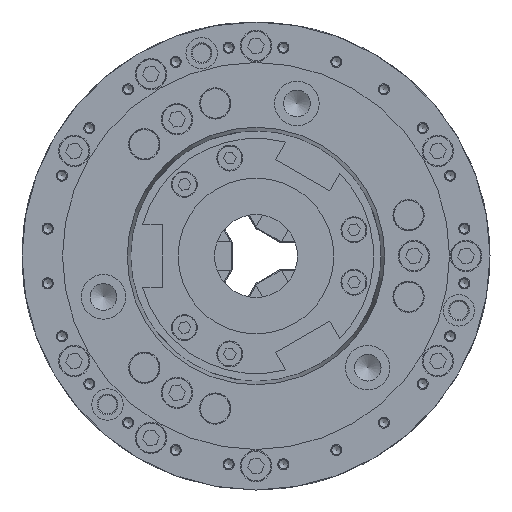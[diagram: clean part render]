
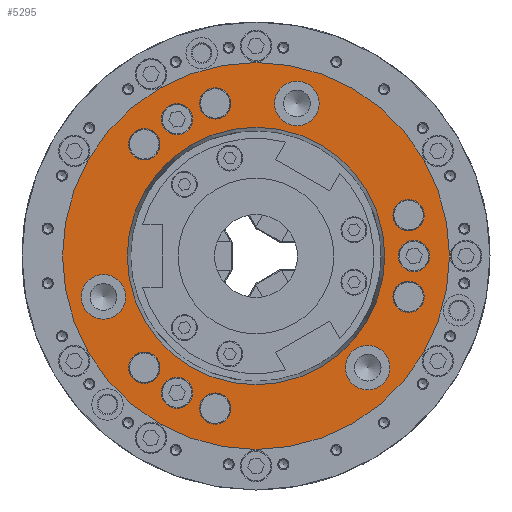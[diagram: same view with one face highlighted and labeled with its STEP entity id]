
A CAD part, left-side view. The second image highlights one B-rep face of the part: STEP entity #5295.
In plain terms, the highlighted planar face has unit normal (-1, 0, 0).
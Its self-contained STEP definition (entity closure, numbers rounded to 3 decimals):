
#319 = ORIENTED_EDGE ( 'NONE', *, *, #3410, .T. ) ;
#1365 = CARTESIAN_POINT ( 'NONE',  ( -114., 42.862, -65.74 ) ) ;
#2417 = EDGE_CURVE ( 'NONE', #73431, #73431, #35560, .T. ) ;
#2870 = CIRCLE ( 'NONE', #75225, 8.5 ) ;
#2931 = CIRCLE ( 'NONE', #22307, 8.5 ) ;
#3189 = VERTEX_POINT ( 'NONE', #39718 ) ;
#3400 = CARTESIAN_POINT ( 'NONE',  ( -114., -60.617, -48.517 ) ) ;
#3410 = EDGE_CURVE ( 'NONE', #23876, #23876, #12984, .T. ) ;
#3440 = DIRECTION ( 'NONE',  ( 0., 0., -1. ) ) ;
#3569 = ORIENTED_EDGE ( 'NONE', *, *, #39184, .F. ) ;
#4223 = FACE_BOUND ( 'NONE', #8198, .T. ) ;
#4686 = DIRECTION ( 'NONE',  ( 1., 0., 0. ) ) ;
#5206 = FACE_BOUND ( 'NONE', #77025, .T. ) ;
#5295 = ADVANCED_FACE ( 'NONE', ( #4223, #63150, #18266, #43453, #28484, #49930, #5206, #64048, #31352, #13603, #75303, #27602, #11703, #57416 ), #14771, .T. ) ;
#6658 = DIRECTION ( 'NONE',  ( 0., 0., -1. ) ) ;
#7044 = DIRECTION ( 'NONE',  ( 0., 0.866, 0.5 ) ) ;
#7797 = DIRECTION ( 'NONE',  ( 0., 0., 1. ) ) ;
#7838 = CARTESIAN_POINT ( 'NONE',  ( -114., 22.187, -82.804 ) ) ;
#7913 = DIRECTION ( 'NONE',  ( -1., 0., 0. ) ) ;
#8198 = EDGE_LOOP ( 'NONE', ( #77047 ) ) ;
#8716 = AXIS2_PLACEMENT_3D ( 'NONE', #71978, #35618, #6658 ) ;
#9535 = CIRCLE ( 'NONE', #42071, 12.1 ) ;
#9704 = VERTEX_POINT ( 'NONE', #1365 ) ;
#10641 = CIRCLE ( 'NONE', #42029, 8.5 ) ;
#11029 = CARTESIAN_POINT ( 'NONE',  ( -114., -75.443, 26.437 ) ) ;
#11421 = CARTESIAN_POINT ( 'NONE',  ( -114., -22.187, 82.804 ) ) ;
#11440 = AXIS2_PLACEMENT_3D ( 'NONE', #30258, #71564, #11985 ) ;
#11703 = FACE_BOUND ( 'NONE', #36053, .T. ) ;
#11911 = EDGE_CURVE ( 'NONE', #32168, #32168, #42522, .T. ) ;
#11985 = DIRECTION ( 'NONE',  ( 0., -0.866, -0.5 ) ) ;
#12584 = EDGE_LOOP ( 'NONE', ( #34785 ) ) ;
#12713 = EDGE_LOOP ( 'NONE', ( #3569 ) ) ;
#12909 = DIRECTION ( 'NONE',  ( 0., 0., -1. ) ) ;
#12984 = CIRCLE ( 'NONE', #8716, 69.859 ) ;
#13603 = FACE_BOUND ( 'NONE', #49838, .T. ) ;
#14343 = DIRECTION ( 'NONE',  ( 1., 0., 0. ) ) ;
#14771 = PLANE ( 'NONE',  #32377 ) ;
#15137 = CARTESIAN_POINT ( 'NONE',  ( -114., 35.501, 69.99 ) ) ;
#15707 = CARTESIAN_POINT ( 'NONE',  ( -114., 60.617, 60.617 ) ) ;
#15989 = CARTESIAN_POINT ( 'NONE',  ( -114., 60.617, -60.617 ) ) ;
#16529 = EDGE_CURVE ( 'NONE', #36869, #36869, #16658, .T. ) ;
#16658 = CIRCLE ( 'NONE', #11440, 8.5 ) ;
#17095 = VERTEX_POINT ( 'NONE', #3400 ) ;
#18060 = VERTEX_POINT ( 'NONE', #47535 ) ;
#18266 = FACE_BOUND ( 'NONE', #12584, .T. ) ;
#20626 = DIRECTION ( 'NONE',  ( 0., -0.866, 0.5 ) ) ;
#21230 = DIRECTION ( 'NONE',  ( 1., 0., 0. ) ) ;
#21961 = CARTESIAN_POINT ( 'NONE',  ( -114., -82.804, 22.187 ) ) ;
#22307 = AXIS2_PLACEMENT_3D ( 'NONE', #67455, #7913, #68234 ) ;
#22468 = DIRECTION ( 'NONE',  ( 0., 0.866, 0.5 ) ) ;
#22787 = CARTESIAN_POINT ( 'NONE',  ( -114., -75.443, -26.437 ) ) ;
#23173 = AXIS2_PLACEMENT_3D ( 'NONE', #64301, #52190, #52716 ) ;
#23876 = VERTEX_POINT ( 'NONE', #53319 ) ;
#24355 = EDGE_CURVE ( 'NONE', #9704, #9704, #28218, .T. ) ;
#25146 = CARTESIAN_POINT ( 'NONE',  ( -114., -60.617, -60.617 ) ) ;
#26761 = DIRECTION ( 'NONE',  ( 0., 0., 1. ) ) ;
#27602 = FACE_BOUND ( 'NONE', #45735, .T. ) ;
#27696 = AXIS2_PLACEMENT_3D ( 'NONE', #60957, #43116, #12909 ) ;
#28218 = CIRCLE ( 'NONE', #33477, 8.5 ) ;
#28484 = FACE_OUTER_BOUND ( 'NONE', #50827, .T. ) ;
#28630 = ORIENTED_EDGE ( 'NONE', *, *, #71998, .F. ) ;
#28679 = EDGE_CURVE ( 'NONE', #3189, #3189, #32865, .T. ) ;
#30258 = CARTESIAN_POINT ( 'NONE',  ( -114., 22.187, 82.804 ) ) ;
#31078 = VERTEX_POINT ( 'NONE', #15137 ) ;
#31105 = ORIENTED_EDGE ( 'NONE', *, *, #11911, .F. ) ;
#31352 = FACE_BOUND ( 'NONE', #12713, .T. ) ;
#31648 = AXIS2_PLACEMENT_3D ( 'NONE', #11421, #71030, #35677 ) ;
#32168 = VERTEX_POINT ( 'NONE', #71939 ) ;
#32377 = AXIS2_PLACEMENT_3D ( 'NONE', #62549, #74311, #26761 ) ;
#32865 = CIRCLE ( 'NONE', #31648, 12.1 ) ;
#33477 = AXIS2_PLACEMENT_3D ( 'NONE', #73632, #38034, #7797 ) ;
#33797 = CIRCLE ( 'NONE', #37666, 8.5 ) ;
#34785 = ORIENTED_EDGE ( 'NONE', *, *, #34848, .F. ) ;
#34848 = EDGE_CURVE ( 'NONE', #56358, #56358, #40931, .T. ) ;
#35560 = CIRCLE ( 'NONE', #67778, 8.5 ) ;
#35618 = DIRECTION ( 'NONE',  ( 1., 0., 0. ) ) ;
#35677 = DIRECTION ( 'NONE',  ( 0., 0., 1. ) ) ;
#36053 = EDGE_LOOP ( 'NONE', ( #71477 ) ) ;
#36869 = VERTEX_POINT ( 'NONE', #43386 ) ;
#37028 = DIRECTION ( 'NONE',  ( 0., 0., 1. ) ) ;
#37344 = DIRECTION ( 'NONE',  ( 0., 0., 1. ) ) ;
#37666 = AXIS2_PLACEMENT_3D ( 'NONE', #7838, #14343, #20626 ) ;
#38034 = DIRECTION ( 'NONE',  ( -1., 0., 0. ) ) ;
#39184 = EDGE_CURVE ( 'NONE', #45112, #45112, #2931, .T. ) ;
#39718 = CARTESIAN_POINT ( 'NONE',  ( -114., -22.187, 94.904 ) ) ;
#39910 = ORIENTED_EDGE ( 'NONE', *, *, #46862, .T. ) ;
#40931 = CIRCLE ( 'NONE', #62571, 12.1 ) ;
#42029 = AXIS2_PLACEMENT_3D ( 'NONE', #21961, #4686, #22468 ) ;
#42071 = AXIS2_PLACEMENT_3D ( 'NONE', #25146, #66965, #37344 ) ;
#42522 = CIRCLE ( 'NONE', #27696, 105. ) ;
#43116 = DIRECTION ( 'NONE',  ( 1., 0., 0. ) ) ;
#43386 = CARTESIAN_POINT ( 'NONE',  ( -114., 14.826, 78.554 ) ) ;
#43453 = FACE_BOUND ( 'NONE', #73587, .T. ) ;
#43787 = EDGE_CURVE ( 'NONE', #18060, #18060, #53698, .T. ) ;
#44142 = EDGE_LOOP ( 'NONE', ( #64555 ) ) ;
#44191 = EDGE_CURVE ( 'NONE', #73204, #73204, #10641, .T. ) ;
#44457 = ORIENTED_EDGE ( 'NONE', *, *, #24355, .F. ) ;
#45112 = VERTEX_POINT ( 'NONE', #22787 ) ;
#45499 = CARTESIAN_POINT ( 'NONE',  ( -114., 82.804, -10.087 ) ) ;
#45735 = EDGE_LOOP ( 'NONE', ( #48528 ) ) ;
#46862 = EDGE_CURVE ( 'NONE', #59160, #59160, #33797, .T. ) ;
#47535 = CARTESIAN_POINT ( 'NONE',  ( -114., 60.617, -52.117 ) ) ;
#47954 = ORIENTED_EDGE ( 'NONE', *, *, #43787, .F. ) ;
#48528 = ORIENTED_EDGE ( 'NONE', *, *, #16529, .F. ) ;
#49838 = EDGE_LOOP ( 'NONE', ( #49933 ) ) ;
#49930 = FACE_BOUND ( 'NONE', #50814, .T. ) ;
#49933 = ORIENTED_EDGE ( 'NONE', *, *, #72706, .T. ) ;
#50814 = EDGE_LOOP ( 'NONE', ( #47954 ) ) ;
#50827 = EDGE_LOOP ( 'NONE', ( #31105 ) ) ;
#52190 = DIRECTION ( 'NONE',  ( -1., 0., 0. ) ) ;
#52716 = DIRECTION ( 'NONE',  ( 0., -0.866, -0.5 ) ) ;
#52829 = CARTESIAN_POINT ( 'NONE',  ( -114., 60.617, 52.117 ) ) ;
#53034 = CARTESIAN_POINT ( 'NONE',  ( -114., 14.826, -78.554 ) ) ;
#53319 = CARTESIAN_POINT ( 'NONE',  ( -114., 0., -69.859 ) ) ;
#53698 = CIRCLE ( 'NONE', #77139, 8.5 ) ;
#55324 = VERTEX_POINT ( 'NONE', #75232 ) ;
#56358 = VERTEX_POINT ( 'NONE', #45499 ) ;
#57416 = FACE_BOUND ( 'NONE', #44142, .T. ) ;
#59160 = VERTEX_POINT ( 'NONE', #53034 ) ;
#60603 = CARTESIAN_POINT ( 'NONE',  ( -114., -85.725, 0. ) ) ;
#60957 = CARTESIAN_POINT ( 'NONE',  ( -114., 0., 0. ) ) ;
#62549 = CARTESIAN_POINT ( 'NONE',  ( -114., 52.5, -90.933 ) ) ;
#62571 = AXIS2_PLACEMENT_3D ( 'NONE', #68161, #72867, #37028 ) ;
#63022 = DIRECTION ( 'NONE',  ( -1., 0., 0. ) ) ;
#63150 = FACE_BOUND ( 'NONE', #66371, .T. ) ;
#63565 = ORIENTED_EDGE ( 'NONE', *, *, #44191, .T. ) ;
#64048 = FACE_BOUND ( 'NONE', #66247, .T. ) ;
#64068 = DIRECTION ( 'NONE',  ( 0., 0., 1. ) ) ;
#64301 = CARTESIAN_POINT ( 'NONE',  ( -114., 42.863, 74.24 ) ) ;
#64555 = ORIENTED_EDGE ( 'NONE', *, *, #2417, .T. ) ;
#66247 = EDGE_LOOP ( 'NONE', ( #39910 ) ) ;
#66371 = EDGE_LOOP ( 'NONE', ( #28630 ) ) ;
#66965 = DIRECTION ( 'NONE',  ( -1., 0., 0. ) ) ;
#67046 = EDGE_LOOP ( 'NONE', ( #63565 ) ) ;
#67455 = CARTESIAN_POINT ( 'NONE',  ( -114., -82.804, -22.187 ) ) ;
#67778 = AXIS2_PLACEMENT_3D ( 'NONE', #15707, #21230, #3440 ) ;
#68161 = CARTESIAN_POINT ( 'NONE',  ( -114., 82.804, -22.187 ) ) ;
#68234 = DIRECTION ( 'NONE',  ( 0., 0.866, -0.5 ) ) ;
#71030 = DIRECTION ( 'NONE',  ( -1., 0., 0. ) ) ;
#71477 = ORIENTED_EDGE ( 'NONE', *, *, #72364, .F. ) ;
#71564 = DIRECTION ( 'NONE',  ( -1., 0., 0. ) ) ;
#71939 = CARTESIAN_POINT ( 'NONE',  ( -114., 0., -105. ) ) ;
#71978 = CARTESIAN_POINT ( 'NONE',  ( -114., 0., 0. ) ) ;
#71998 = EDGE_CURVE ( 'NONE', #17095, #17095, #9535, .T. ) ;
#72364 = EDGE_CURVE ( 'NONE', #31078, #31078, #74918, .T. ) ;
#72611 = DIRECTION ( 'NONE',  ( 1., 0., 0. ) ) ;
#72706 = EDGE_CURVE ( 'NONE', #55324, #55324, #2870, .T. ) ;
#72867 = DIRECTION ( 'NONE',  ( -1., 0., 0. ) ) ;
#73204 = VERTEX_POINT ( 'NONE', #11029 ) ;
#73431 = VERTEX_POINT ( 'NONE', #52829 ) ;
#73587 = EDGE_LOOP ( 'NONE', ( #319 ) ) ;
#73632 = CARTESIAN_POINT ( 'NONE',  ( -114., 42.862, -74.24 ) ) ;
#74311 = DIRECTION ( 'NONE',  ( -1., 0., 0. ) ) ;
#74918 = CIRCLE ( 'NONE', #23173, 8.5 ) ;
#75225 = AXIS2_PLACEMENT_3D ( 'NONE', #60603, #72611, #7044 ) ;
#75232 = CARTESIAN_POINT ( 'NONE',  ( -114., -78.364, 4.25 ) ) ;
#75303 = FACE_BOUND ( 'NONE', #67046, .T. ) ;
#77025 = EDGE_LOOP ( 'NONE', ( #44457 ) ) ;
#77047 = ORIENTED_EDGE ( 'NONE', *, *, #28679, .F. ) ;
#77139 = AXIS2_PLACEMENT_3D ( 'NONE', #15989, #63022, #64068 ) ;
